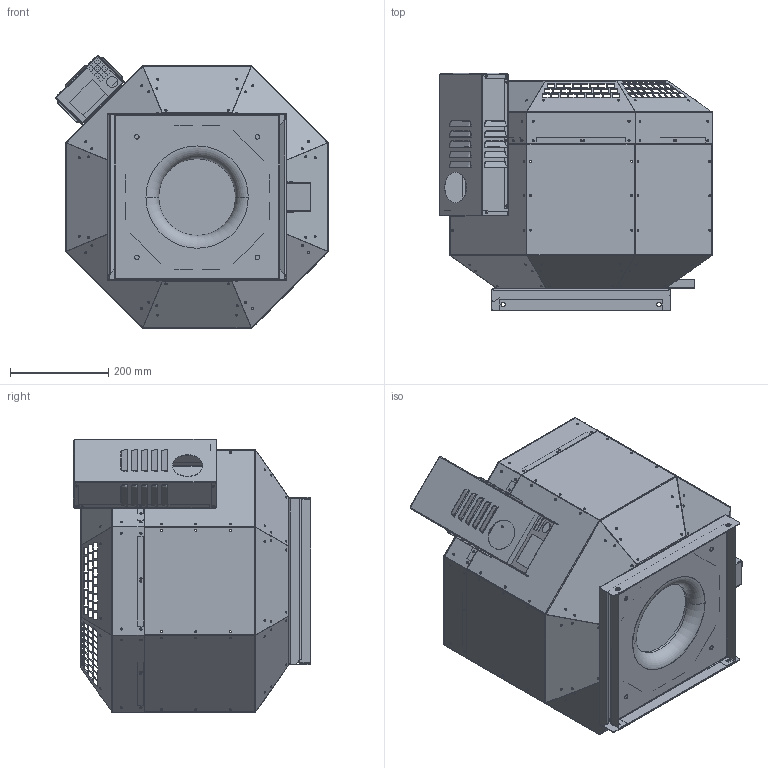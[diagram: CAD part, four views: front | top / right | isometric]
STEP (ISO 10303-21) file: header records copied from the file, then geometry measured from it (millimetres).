
FILE_DESCRIPTION (( 'STEP AP203' ), '1' );
FILE_NAME ('145174-01_DVNI250EC30_step.step', '2018-08-30T06:47:42', ( '' ), ( '' ), 'SwSTEP 2.0', 'SolidWorks 2017', '' );
FILE_SCHEMA (( 'CONFIG_CONTROL_DESIGN' ));
Products named in the file (1): 145174-01_DVNI250EC30_step
Bounding box: 555.07 x 481.99 x 555.07 mm (x, y, z)
Surface area: 2480243.4 mm2 (no closed solid volume)
Topology: 0 solids, 43 shells, 1450 faces, 6604 edges, 4819 vertices
Faces by surface type: plane 984, cylinder 382, bspline 82, torus 2
Entity records: 85208 total; most frequent: CARTESIAN_POINT 31889, DIRECTION 10091, ORIENTED_EDGE 9826, EDGE_CURVE 6604, LINE 4821, VECTOR 4821, VERTEX_POINT 4819, AXIS2_PLACEMENT_3D 2635
